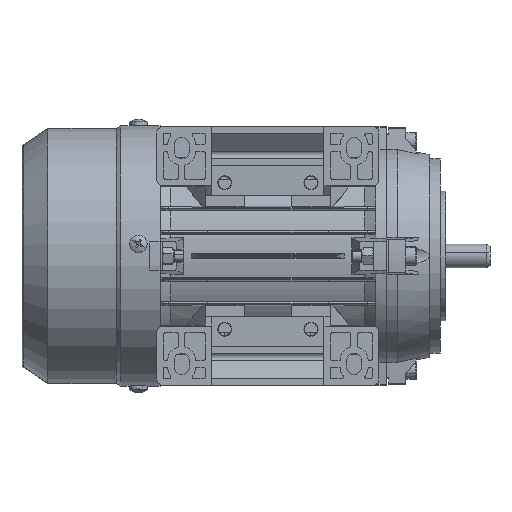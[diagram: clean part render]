
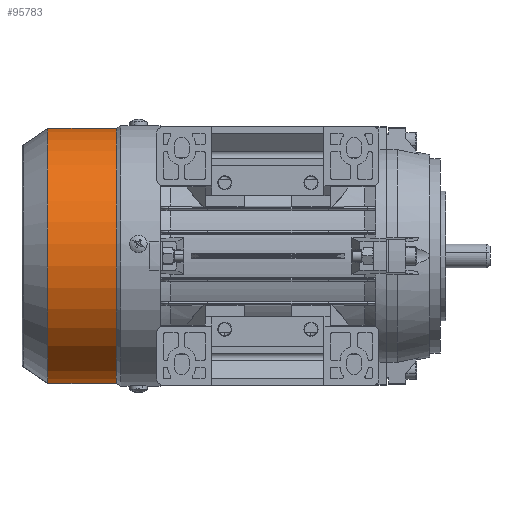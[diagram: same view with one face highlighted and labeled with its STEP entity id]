
A CAD part, front view. The second image highlights one B-rep face of the part: STEP entity #95783.
In plain terms, the highlighted cylindrical face has radius 59.3 mm (diameter 118.6 mm), a partial arc.
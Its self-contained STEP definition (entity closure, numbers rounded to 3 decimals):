
#15049 = DIRECTION ( 'NONE',  ( 1., 0., 0. ) ) ;
#16692 = FACE_OUTER_BOUND ( 'NONE', #37411, .T. ) ;
#18921 = VERTEX_POINT ( 'NONE', #67354 ) ;
#19969 = AXIS2_PLACEMENT_3D ( 'NONE', #39858, #47630, #72058 ) ;
#23386 = CARTESIAN_POINT ( 'NONE',  ( -30.994, -0.801, 0. ) ) ;
#25875 = DIRECTION ( 'NONE',  ( 1., 0., 0. ) ) ;
#25915 = VECTOR ( 'NONE', #25875, 1000. ) ;
#26373 = VERTEX_POINT ( 'NONE', #64199 ) ;
#26887 = CARTESIAN_POINT ( 'NONE',  ( -51.294, -6.53, -59.023 ) ) ;
#35448 = ORIENTED_EDGE ( 'NONE', *, *, #80189, .F. ) ;
#37411 = EDGE_LOOP ( 'NONE', ( #35448, #100816, #109616, #91513 ) ) ;
#39683 = VERTEX_POINT ( 'NONE', #26887 ) ;
#39858 = CARTESIAN_POINT ( 'NONE',  ( -51.294, -0.801, 0. ) ) ;
#41265 = CIRCLE ( 'NONE', #19969, 59.3 ) ;
#43080 = VERTEX_POINT ( 'NONE', #77916 ) ;
#47630 = DIRECTION ( 'NONE',  ( 1., 0., 0. ) ) ;
#48881 = DIRECTION ( 'NONE',  ( 0., -0.097, -0.995 ) ) ;
#49424 = CYLINDRICAL_SURFACE ( 'NONE', #108107, 59.3 ) ;
#50399 = DIRECTION ( 'NONE',  ( 1., 0., 0. ) ) ;
#63507 = EDGE_CURVE ( 'NONE', #26373, #39683, #92037, .T. ) ;
#64199 = CARTESIAN_POINT ( 'NONE',  ( -82.994, -6.53, -59.023 ) ) ;
#64978 = EDGE_CURVE ( 'NONE', #18921, #39683, #41265, .T. ) ;
#67115 = DIRECTION ( 'NONE',  ( 1., 0., 0. ) ) ;
#67354 = CARTESIAN_POINT ( 'NONE',  ( -51.294, 4.928, 59.023 ) ) ;
#72058 = DIRECTION ( 'NONE',  ( 0., -0.097, -0.995 ) ) ;
#74238 = DIRECTION ( 'NONE',  ( 0., -0.097, -0.995 ) ) ;
#75588 = CIRCLE ( 'NONE', #109229, 59.3 ) ;
#76659 = VECTOR ( 'NONE', #67115, 1000. ) ;
#77916 = CARTESIAN_POINT ( 'NONE',  ( -82.994, 4.928, 59.023 ) ) ;
#80189 = EDGE_CURVE ( 'NONE', #43080, #18921, #83544, .T. ) ;
#82550 = CARTESIAN_POINT ( 'NONE',  ( -82.994, -0.801, 0. ) ) ;
#83176 = CARTESIAN_POINT ( 'NONE',  ( -30.994, -6.53, -59.023 ) ) ;
#83544 = LINE ( 'NONE', #108488, #25915 ) ;
#90176 = EDGE_CURVE ( 'NONE', #43080, #26373, #75588, .T. ) ;
#91513 = ORIENTED_EDGE ( 'NONE', *, *, #64978, .F. ) ;
#92037 = LINE ( 'NONE', #83176, #76659 ) ;
#95783 = ADVANCED_FACE ( 'NONE', ( #16692 ), #49424, .T. ) ;
#100816 = ORIENTED_EDGE ( 'NONE', *, *, #90176, .T. ) ;
#108107 = AXIS2_PLACEMENT_3D ( 'NONE', #23386, #15049, #48881 ) ;
#108488 = CARTESIAN_POINT ( 'NONE',  ( -30.994, 4.928, 59.023 ) ) ;
#109229 = AXIS2_PLACEMENT_3D ( 'NONE', #82550, #50399, #74238 ) ;
#109616 = ORIENTED_EDGE ( 'NONE', *, *, #63507, .T. ) ;
